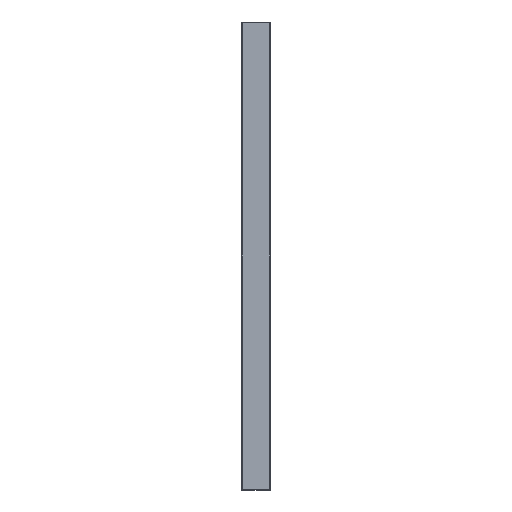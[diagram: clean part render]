
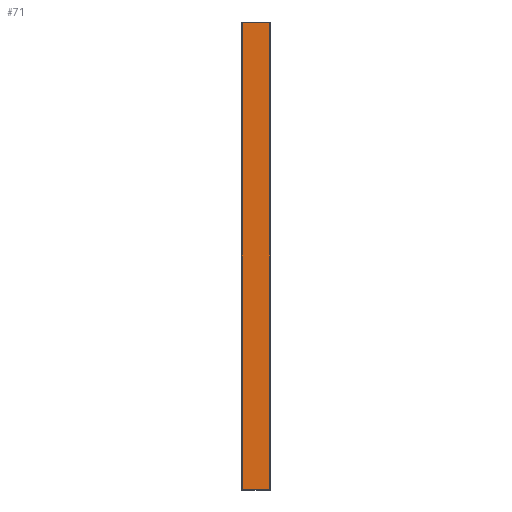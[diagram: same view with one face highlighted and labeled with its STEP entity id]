
A CAD part, front view. The second image highlights one B-rep face of the part: STEP entity #71.
In plain terms, the highlighted planar face has unit normal (0, -1, 0).
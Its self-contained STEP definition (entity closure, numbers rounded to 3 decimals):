
#71 = ADVANCED_FACE ( 'NONE', ( #1462 ), #450, .F. ) ;
#213 = LINE ( 'NONE', #2072, #2054 ) ;
#215 = VECTOR ( 'NONE', #1540, 1000. ) ;
#221 = EDGE_CURVE ( 'NONE', #1787, #1884, #820, .T. ) ;
#234 = CARTESIAN_POINT ( 'NONE',  ( 0.25, 0., 199.75 ) ) ;
#309 = CARTESIAN_POINT ( 'NONE',  ( 0., 0., 199.75 ) ) ;
#450 = PLANE ( 'NONE',  #2230 ) ;
#493 = LINE ( 'NONE', #2112, #1867 ) ;
#618 = DIRECTION ( 'NONE',  ( 0., 0., 1. ) ) ;
#782 = EDGE_LOOP ( 'NONE', ( #1310, #1004, #1866, #843 ) ) ;
#788 = EDGE_CURVE ( 'NONE', #1884, #1812, #2059, .T. ) ;
#820 = LINE ( 'NONE', #1927, #2175 ) ;
#843 = ORIENTED_EDGE ( 'NONE', *, *, #788, .T. ) ;
#854 = DIRECTION ( 'NONE',  ( 0., 0., 1. ) ) ;
#863 = CARTESIAN_POINT ( 'NONE',  ( 0.25, 0., 0.25 ) ) ;
#1004 = ORIENTED_EDGE ( 'NONE', *, *, #1501, .T. ) ;
#1005 = DIRECTION ( 'NONE',  ( 1., 0., 0. ) ) ;
#1063 = EDGE_CURVE ( 'NONE', #1812, #1686, #493, .T. ) ;
#1131 = CARTESIAN_POINT ( 'NONE',  ( 11.95, 0., 199.75 ) ) ;
#1310 = ORIENTED_EDGE ( 'NONE', *, *, #1063, .T. ) ;
#1462 = FACE_OUTER_BOUND ( 'NONE', #782, .T. ) ;
#1493 = CARTESIAN_POINT ( 'NONE',  ( 0., 0., 200. ) ) ;
#1501 = EDGE_CURVE ( 'NONE', #1686, #1787, #213, .T. ) ;
#1540 = DIRECTION ( 'NONE',  ( -1., 0., 0. ) ) ;
#1677 = DIRECTION ( 'NONE',  ( 0., 1., 0. ) ) ;
#1686 = VERTEX_POINT ( 'NONE', #863 ) ;
#1787 = VERTEX_POINT ( 'NONE', #1833 ) ;
#1812 = VERTEX_POINT ( 'NONE', #234 ) ;
#1833 = CARTESIAN_POINT ( 'NONE',  ( 11.95, 0., 0.25 ) ) ;
#1866 = ORIENTED_EDGE ( 'NONE', *, *, #221, .T. ) ;
#1867 = VECTOR ( 'NONE', #2293, 1000. ) ;
#1884 = VERTEX_POINT ( 'NONE', #1131 ) ;
#1927 = CARTESIAN_POINT ( 'NONE',  ( 11.95, 0., 200. ) ) ;
#2054 = VECTOR ( 'NONE', #1005, 1000. ) ;
#2059 = LINE ( 'NONE', #309, #215 ) ;
#2072 = CARTESIAN_POINT ( 'NONE',  ( 0., 0., 0.25 ) ) ;
#2112 = CARTESIAN_POINT ( 'NONE',  ( 0.25, 0., 200. ) ) ;
#2175 = VECTOR ( 'NONE', #854, 1000. ) ;
#2230 = AXIS2_PLACEMENT_3D ( 'NONE', #1493, #1677, #618 ) ;
#2293 = DIRECTION ( 'NONE',  ( 0., 0., -1. ) ) ;
